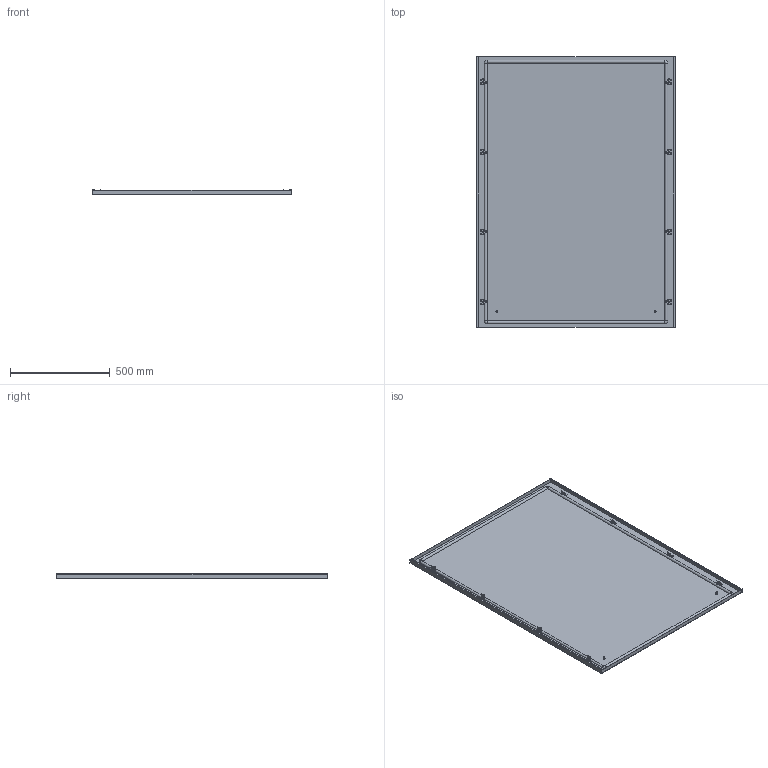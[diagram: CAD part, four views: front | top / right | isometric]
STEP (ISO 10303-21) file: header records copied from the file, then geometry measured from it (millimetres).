
FILE_DESCRIPTION(('Open CASCADE Model'),'2;1');
FILE_NAME('Open CASCADE Shape Model','2025-02-07T16:30:48',('Author'),( 'Open CASCADE'),'Open CASCADE STEP processor 7.8','Open CASCADE 7.8' ,'Unknown');
FILE_SCHEMA(('AUTOMOTIVE_DESIGN { 1 0 10303 214 1 1 1 1 }'));
Length unit declared in the file: millimetre
Products named in the file (10): Compound1; Compound2; Compound3; Solid1; Solid2; Solid3; Solid4; Solid5; Solid6; Solid7
Assembly tree (40 placements, depth 4):
  Compound1
    Compound2
      Compound3
        Solid1
        Solid2  x4
      Solid3
    Solid4  x8
    Solid5  x8
    Solid6  x8
    Solid7  x8
Bounding box: 994 x 1355 x 23.8 mm (x, y, z)
Volume: 2603455.2 mm3; surface area: 3133437.3 mm2
Topology: 38 solids, 38 shells, 1655 faces, 4040 edges, 2460 vertices
Faces by surface type: plane 1043, cone 308, cylinder 268, torus 25, bspline 8, revolution 3
Full cylindrical faces by diameter (mm): 5 x16, 6 x132, 7.5 x4, 8 x16, 10 x8, 11.57 x8
Entity records: 7823 total; most frequent: CARTESIAN_POINT 1513, DIRECTION 1262, ORIENTED_EDGE 1244, EDGE_CURVE 622, AXIS2_PLACEMENT_3D 425, LINE 409, VECTOR 409, VERTEX_POINT 387
